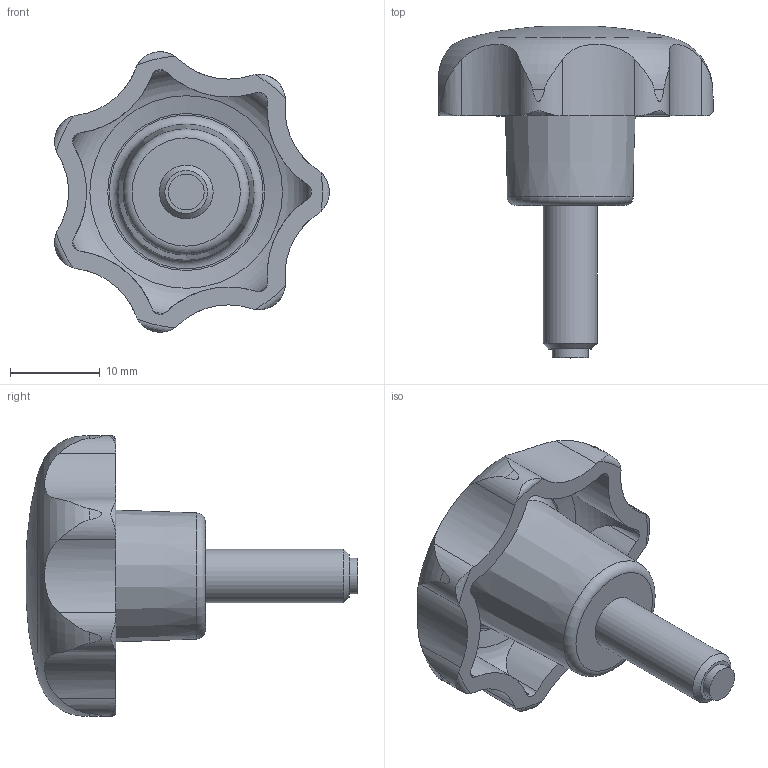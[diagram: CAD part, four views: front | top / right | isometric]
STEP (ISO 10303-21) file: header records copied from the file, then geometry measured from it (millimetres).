
FILE_DESCRIPTION( ( 'STEP AP203' ), '1' );
FILE_NAME( 'C:/Temp/Ganter_Step_05_03_2020/data/2_2/gn6336_10/Star knob GN 6336.10-32-M6-16-MS.stp', '2020-03-05T12:04:08', ( 'License CC BY-ND 4.0' ), ( 'CADENAS' ), ' ', 'PARTsolutions', ' ' );
FILE_SCHEMA( ( 'CONFIG_CONTROL_DESIGN' ) );
Length unit declared in the file: millimetre
Products named in the file (1): _Star knob GN 6336.10-32-M6-16-MS
Bounding box: 30.63 x 37.02 x 31.27 mm (x, y, z)
Volume: 5851.1 mm3; surface area: 3606.4 mm2
Topology: 1 solids, 1 shells, 65 faces, 189 edges, 128 vertices
Faces by surface type: cylinder 30, cone 17, torus 13, plane 4, bspline 1
Full cylindrical faces by diameter (mm): 4 x1, 6 x1
Entity records: 3035 total; most frequent: CARTESIAN_POINT 1421, ORIENTED_EDGE 348, DIRECTION 296, EDGE_CURVE 174, AXIS2_PLACEMENT_3D 134, VERTEX_POINT 125, EDGE_LOOP 78, B_SPLINE_CURVE_WITH_KNOTS 77
